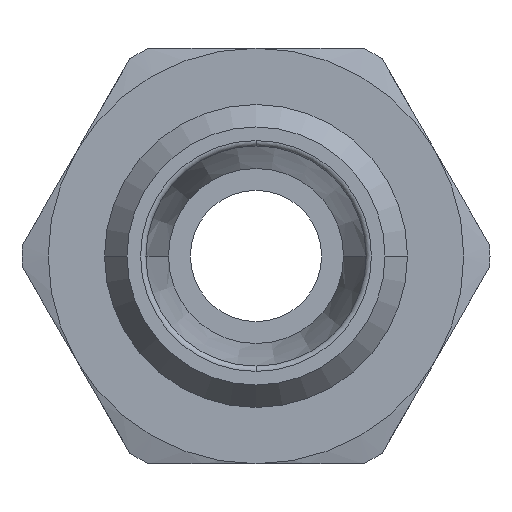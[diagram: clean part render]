
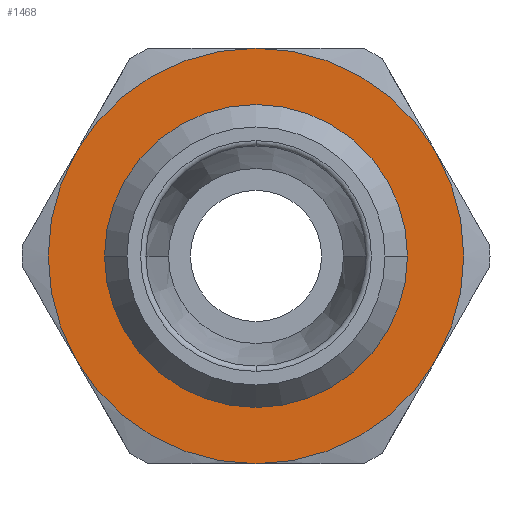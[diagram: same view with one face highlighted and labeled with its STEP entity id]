
A CAD part, left-side view. The second image highlights one B-rep face of the part: STEP entity #1468.
In plain terms, the highlighted planar face has unit normal (-1, 0, 0) as drawn and (0, 0, 1) by its records, which use the part's own axes.
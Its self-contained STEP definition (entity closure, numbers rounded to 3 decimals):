
#626=CARTESIAN_POINT('',(-6.8,0.,2.5));
#627=VERTEX_POINT('',#626);
#653=CARTESIAN_POINT('',(6.8,0.,2.5));
#654=VERTEX_POINT('',#653);
#662=CARTESIAN_POINT('',(0.,0.0,2.5));
#663=DIRECTION('',(0.0,0.0,1.0));
#664=DIRECTION('',(-1.0,0.0,0.0));
#665=AXIS2_PLACEMENT_3D('',#662,#663,#664);
#666=CIRCLE('',#665,6.8);
#667=EDGE_CURVE('',#654,#627,#666,.T.);
#1348=CARTESIAN_POINT('',(0.,-6.8,2.5));
#1349=VERTEX_POINT('',#1348);
#1350=CARTESIAN_POINT('',(0.,0.0,2.5));
#1351=DIRECTION('',(0.0,0.0,1.0));
#1352=DIRECTION('',(-1.0,0.0,0.0));
#1353=AXIS2_PLACEMENT_3D('',#1350,#1351,#1352);
#1354=CIRCLE('',#1353,6.8);
#1355=EDGE_CURVE('',#627,#1349,#1354,.T.);
#1357=CARTESIAN_POINT('',(0.,0.0,2.5));
#1358=DIRECTION('',(0.0,0.0,1.0));
#1359=DIRECTION('',(-1.0,0.0,0.0));
#1360=AXIS2_PLACEMENT_3D('',#1357,#1358,#1359);
#1361=CIRCLE('',#1360,6.8);
#1362=EDGE_CURVE('',#1349,#654,#1361,.T.);
#1402=CARTESIAN_POINT('',(0.,0.,2.5));
#1403=DIRECTION('',(0.0,0.0,1.0));
#1404=DIRECTION('',(1.0,0.0,0.0));
#1405=AXIS2_PLACEMENT_3D('',#1402,#1403,#1404);
#1406=PLANE('',#1405);
#1407=CARTESIAN_POINT('',(4.75,-8.227,2.5));
#1408=VERTEX_POINT('',#1407);
#1409=CARTESIAN_POINT('',(9.5,0.0,2.5));
#1410=VERTEX_POINT('',#1409);
#1411=CARTESIAN_POINT('',(0.,0.0,2.5));
#1412=DIRECTION('',(0.0,0.0,1.0));
#1413=DIRECTION('',(1.0,0.0,0.0));
#1414=AXIS2_PLACEMENT_3D('',#1411,#1412,#1413);
#1415=CIRCLE('',#1414,9.5);
#1416=EDGE_CURVE('',#1408,#1410,#1415,.T.);
#1417=ORIENTED_EDGE('',*,*,#1416,.T.);
#1418=CARTESIAN_POINT('',(4.75,8.227,2.5));
#1419=VERTEX_POINT('',#1418);
#1420=CARTESIAN_POINT('',(0.,0.0,2.5));
#1421=DIRECTION('',(0.0,0.0,1.0));
#1422=DIRECTION('',(1.0,0.0,0.0));
#1423=AXIS2_PLACEMENT_3D('',#1420,#1421,#1422);
#1424=CIRCLE('',#1423,9.5);
#1425=EDGE_CURVE('',#1410,#1419,#1424,.T.);
#1426=ORIENTED_EDGE('',*,*,#1425,.T.);
#1427=CARTESIAN_POINT('',(-4.75,8.227,2.5));
#1428=VERTEX_POINT('',#1427);
#1429=CARTESIAN_POINT('',(0.,0.0,2.5));
#1430=DIRECTION('',(0.0,0.0,1.0));
#1431=DIRECTION('',(1.0,0.0,0.0));
#1432=AXIS2_PLACEMENT_3D('',#1429,#1430,#1431);
#1433=CIRCLE('',#1432,9.5);
#1434=EDGE_CURVE('',#1419,#1428,#1433,.T.);
#1435=ORIENTED_EDGE('',*,*,#1434,.T.);
#1436=CARTESIAN_POINT('',(-9.5,0.,2.5));
#1437=VERTEX_POINT('',#1436);
#1438=CARTESIAN_POINT('',(0.,0.0,2.5));
#1439=DIRECTION('',(0.0,0.0,1.0));
#1440=DIRECTION('',(1.0,0.0,0.0));
#1441=AXIS2_PLACEMENT_3D('',#1438,#1439,#1440);
#1442=CIRCLE('',#1441,9.5);
#1443=EDGE_CURVE('',#1428,#1437,#1442,.T.);
#1444=ORIENTED_EDGE('',*,*,#1443,.T.);
#1445=CARTESIAN_POINT('',(-4.75,-8.227,2.5));
#1446=VERTEX_POINT('',#1445);
#1447=CARTESIAN_POINT('',(0.,0.0,2.5));
#1448=DIRECTION('',(0.0,0.0,1.0));
#1449=DIRECTION('',(1.0,0.0,0.0));
#1450=AXIS2_PLACEMENT_3D('',#1447,#1448,#1449);
#1451=CIRCLE('',#1450,9.5);
#1452=EDGE_CURVE('',#1437,#1446,#1451,.T.);
#1453=ORIENTED_EDGE('',*,*,#1452,.T.);
#1454=CARTESIAN_POINT('',(0.,0.0,2.5));
#1455=DIRECTION('',(0.0,0.0,1.0));
#1456=DIRECTION('',(1.0,0.0,0.0));
#1457=AXIS2_PLACEMENT_3D('',#1454,#1455,#1456);
#1458=CIRCLE('',#1457,9.5);
#1459=EDGE_CURVE('',#1446,#1408,#1458,.T.);
#1460=ORIENTED_EDGE('',*,*,#1459,.T.);
#1461=EDGE_LOOP('',(#1417,#1426,#1435,#1444,#1453,#1460));
#1462=FACE_OUTER_BOUND('',#1461,.T.);
#1463=ORIENTED_EDGE('',*,*,#1362,.F.);
#1464=ORIENTED_EDGE('',*,*,#1355,.F.);
#1465=ORIENTED_EDGE('',*,*,#667,.F.);
#1466=EDGE_LOOP('',(#1463,#1464,#1465));
#1467=FACE_BOUND('',#1466,.T.);
#1468=ADVANCED_FACE('',(#1462,#1467),#1406,.T.);
